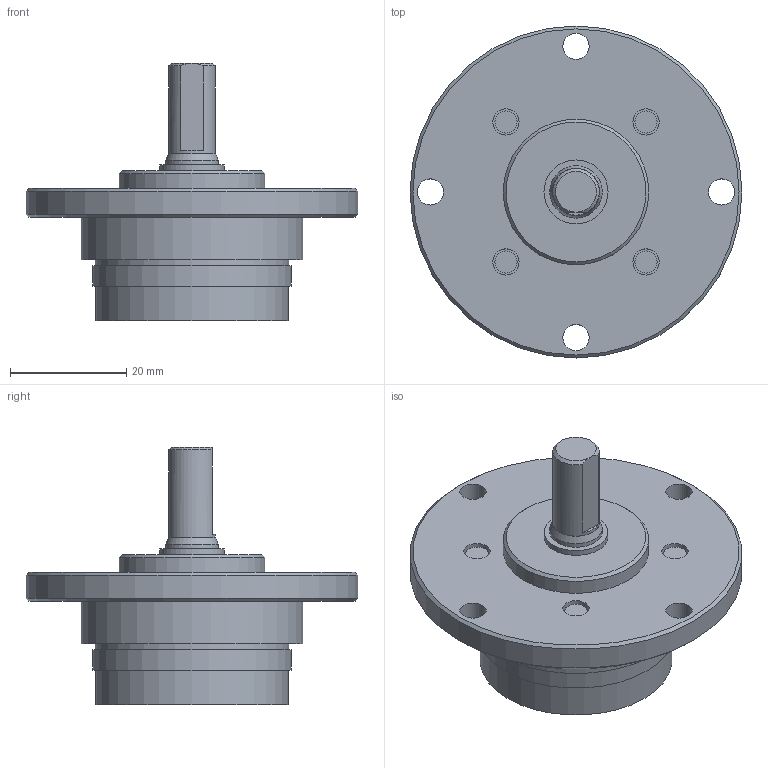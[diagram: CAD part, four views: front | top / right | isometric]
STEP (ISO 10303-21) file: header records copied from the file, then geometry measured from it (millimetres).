
FILE_DESCRIPTION(/* description */ (''),/* implementation_level */ '2;1');
FILE_NAME(/* name */ '38-1_1..stp',/* time_stamp */ '2016-09-15T17:37:19+02:00',/* author */ ('DR. FRITZ FAULHABER GmbH & Co. KG'),/* organization */ ('DR. FRITZ FAULHABER GmbH & Co. KG'),/* preprocessor_version */ 'ST-DEVELOPER v16',/* originating_system */ 'SIEMENS PLM Software NX 10.0',/* authorisation */ '');
FILE_SCHEMA (('AUTOMOTIVE_DESIGN { 1 0 10303 214 3 1 1 1 }'));
Length unit declared in the file: millimetre
Products named in the file (1): huge1AD871C9jgxy
Bounding box: 57 x 57 x 44.3 mm (x, y, z)
Volume: 31369.6 mm3; surface area: 9387.2 mm2
Topology: 1 solids, 1 shells, 58 faces, 108 edges, 73 vertices
Faces by surface type: cylinder 27, plane 25, cone 6
Full cylindrical faces by diameter (mm): 3.8 x4, 4 x1, 4.5 x8, 8 x1, 9 x1, 11 x1, 11.8 x1, 12 x1, 13 x1, 25 x1, 26.9 x1, 27.57 x1, 33 x1, 33.2 x1, 34 x1, 38 x1, 57 x1
Entity records: 1274 total; most frequent: DIRECTION 241, CARTESIAN_POINT 196, ORIENTED_EDGE 130, EDGE_LOOP 119, AXIS2_PLACEMENT_3D 119, FACE_BOUND 112, EDGE_CURVE 65, VERTEX_POINT 63
